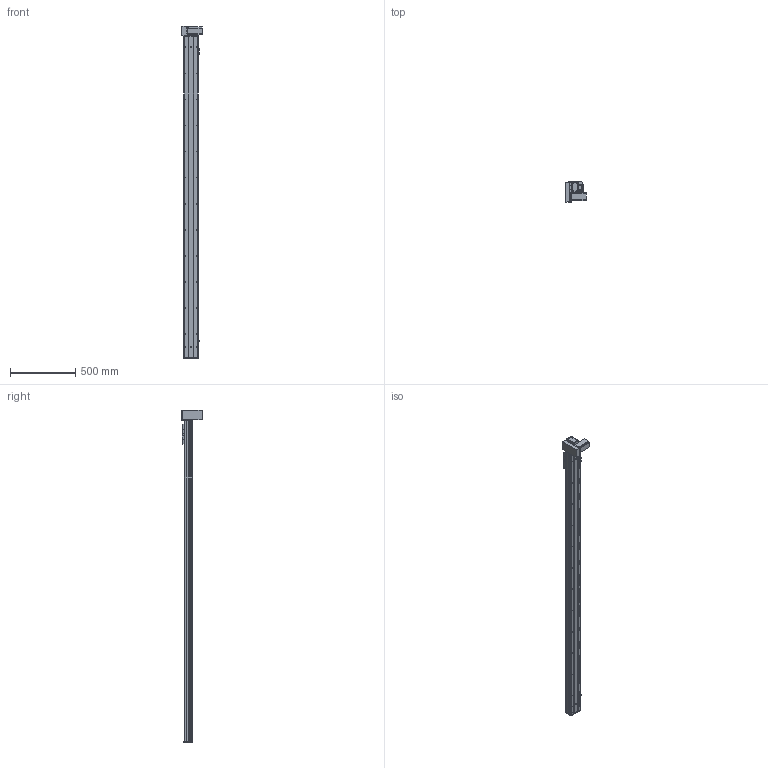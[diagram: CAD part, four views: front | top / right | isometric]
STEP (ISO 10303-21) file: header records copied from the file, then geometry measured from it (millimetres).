
FILE_DESCRIPTION (( 'STEP AP203' ), '1' );
FILE_NAME ('Y10CB-D90-S2200-BM-P400W.STEP', '2020-02-17T02:04:32', ( '微软用户' ), ( '微软中国' ), 'SwSTEP 2.0', 'SolidWorks 2017', '' );
FILE_SCHEMA (( 'CONFIG_CONTROL_DESIGN' ));
Length unit declared in the file: millimetre
Products named in the file (18): Y10B--々湍喘謫眊--666; 0B-埴倛裔啣; 00B-俋欶BM--; 10CB-詩湍-; Y10B-耜蚾蟀諉啣----; Y10CB- 掛极耜裔啣-毀---; 0CB-雄赽釱---; Y10CB-D90-S2200-BM-P400W; Y10C---詩湍揤啣; 0Cb-俋欶---; 10CB9-掛极; Y10B-々湍喘謫眊楊擘啣--; 10CB-耜裔; 0B-萇儂楊擘啣; Y135C-陔俋离換覜結え-; san松下电机400不带刹车----; Y100-135俋离換覜ん--; 0B-源倛裔啣
Assembly tree (21 placements, depth 2):
  Y10CB-D90-S2200-BM-P400W
    0CB-雄赽釱---
    0Cb-俋欶---
    Y10B-々湍喘謫眊楊擘啣--
    0B-萇儂楊擘啣
    san松下电机400不带刹车----
    0B-源倛裔啣
    0B-埴倛裔啣
    10CB-詩湍-
    Y10CB- 掛极耜裔啣-毀---  x2
    Y10C---詩湍揤啣  x2
    10CB9-掛极
    10CB-耜裔
    Y135C-陔俋离換覜結え-
    Y100-135俋离換覜ん--  x3
    Y10B--々湍喘謫眊--666
    00B-俋欶BM--
    Y10B-耜蚾蟀諉啣----
Bounding box: 157 x 156 x 2546 mm (x, y, z)
Volume: 5229843 mm3; surface area: 2468022.4 mm2
Topology: 21 solids, 21 shells, 1062 faces, 2883 edges, 1874 vertices
Faces by surface type: cylinder 549, plane 489, cone 24
Entity records: 33912 total; most frequent: CARTESIAN_POINT 6357, DIRECTION 5406, ORIENTED_EDGE 5236, EDGE_CURVE 2618, AXIS2_PLACEMENT_3D 1933, VERTEX_POINT 1700, LINE 1540, VECTOR 1540
